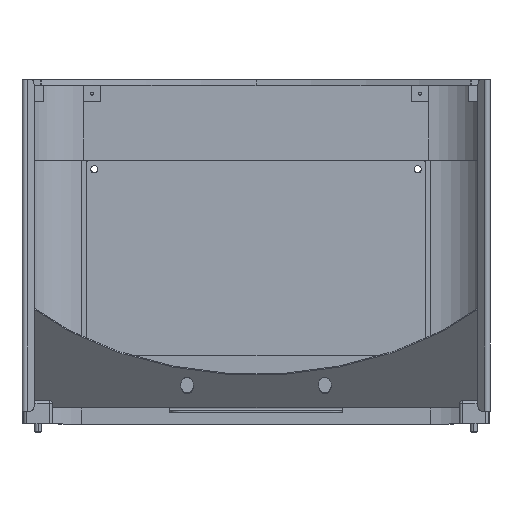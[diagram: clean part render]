
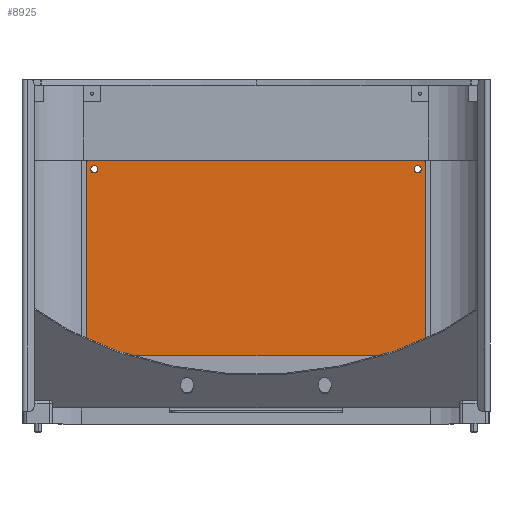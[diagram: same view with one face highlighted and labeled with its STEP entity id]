
A CAD part, top view. The second image highlights one B-rep face of the part: STEP entity #8925.
In plain terms, the highlighted planar face has unit normal (0, 0, 1) as drawn and (0, 0, -1) by its records, which use the part's own axes.
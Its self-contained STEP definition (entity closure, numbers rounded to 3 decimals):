
#103 = CARTESIAN_POINT ( 'NONE',  ( -83., -148., 0. ) ) ;
#225 = AXIS2_PLACEMENT_3D ( 'NONE', #1424, #6289, #2328 ) ;
#361 = EDGE_CURVE ( 'NONE', #6831, #1238, #9578, .T. ) ;
#413 = CARTESIAN_POINT ( 'NONE',  ( -83., -146., 0. ) ) ;
#531 = FACE_BOUND ( 'NONE', #4824, .T. ) ;
#546 = ORIENTED_EDGE ( 'NONE', *, *, #2759, .T. ) ;
#609 = ORIENTED_EDGE ( 'NONE', *, *, #11986, .T. ) ;
#641 = VERTEX_POINT ( 'NONE', #1896 ) ;
#709 = CIRCLE ( 'NONE', #9811, 3.15 ) ;
#739 = DIRECTION ( 'NONE',  ( 0., 0., 1. ) ) ;
#772 = ORIENTED_EDGE ( 'NONE', *, *, #11111, .T. ) ;
#837 = DIRECTION ( 'NONE',  ( 1., 0., 0. ) ) ;
#839 = ORIENTED_EDGE ( 'NONE', *, *, #10468, .F. ) ;
#958 = CARTESIAN_POINT ( 'NONE',  ( 83., -148., 0. ) ) ;
#1198 = EDGE_CURVE ( 'NONE', #641, #2034, #5326, .T. ) ;
#1238 = VERTEX_POINT ( 'NONE', #6722 ) ;
#1259 = EDGE_LOOP ( 'NONE', ( #3783, #2406 ) ) ;
#1267 = EDGE_LOOP ( 'NONE', ( #839, #2640, #9452, #2862, #5529, #3616, #7138, #2776 ) ) ;
#1424 = CARTESIAN_POINT ( 'NONE',  ( 77.5, -141., 0. ) ) ;
#1628 = CARTESIAN_POINT ( 'NONE',  ( -85., 146., 0. ) ) ;
#1756 = VERTEX_POINT ( 'NONE', #11894 ) ;
#1792 = EDGE_LOOP ( 'NONE', ( #546, #10873 ) ) ;
#1801 = CARTESIAN_POINT ( 'NONE',  ( 83., -146., 0. ) ) ;
#1896 = CARTESIAN_POINT ( 'NONE',  ( -80.65, -141., 0. ) ) ;
#2034 = VERTEX_POINT ( 'NONE', #6420 ) ;
#2038 = AXIS2_PLACEMENT_3D ( 'NONE', #5940, #3034, #3963 ) ;
#2084 = DIRECTION ( 'NONE',  ( 0., 0., 1. ) ) ;
#2247 = DIRECTION ( 'NONE',  ( 1., 0., 0. ) ) ;
#2312 = CARTESIAN_POINT ( 'NONE',  ( 77.5, 141., 0. ) ) ;
#2328 = DIRECTION ( 'NONE',  ( 1., 0., 0. ) ) ;
#2406 = ORIENTED_EDGE ( 'NONE', *, *, #1198, .T. ) ;
#2492 = CARTESIAN_POINT ( 'NONE',  ( 77.5, -141., 0. ) ) ;
#2640 = ORIENTED_EDGE ( 'NONE', *, *, #5166, .T. ) ;
#2673 = DIRECTION ( 'NONE',  ( 0., 0., -1. ) ) ;
#2722 = CARTESIAN_POINT ( 'NONE',  ( -85., -146., 0. ) ) ;
#2759 = EDGE_CURVE ( 'NONE', #1238, #6831, #709, .T. ) ;
#2776 = ORIENTED_EDGE ( 'NONE', *, *, #3801, .T. ) ;
#2856 = EDGE_CURVE ( 'NONE', #9164, #4027, #11686, .T. ) ;
#2862 = ORIENTED_EDGE ( 'NONE', *, *, #8737, .T. ) ;
#2886 = DIRECTION ( 'NONE',  ( 0., 0., -1. ) ) ;
#2926 = VERTEX_POINT ( 'NONE', #11187 ) ;
#2978 = CARTESIAN_POINT ( 'NONE',  ( -83., 148., 0. ) ) ;
#3011 = CARTESIAN_POINT ( 'NONE',  ( 85., 148., 0. ) ) ;
#3034 = DIRECTION ( 'NONE',  ( 0., 0., -1. ) ) ;
#3186 = CARTESIAN_POINT ( 'NONE',  ( 74.35, -141., 0. ) ) ;
#3339 = CARTESIAN_POINT ( 'NONE',  ( -85., 148., 0. ) ) ;
#3367 = CARTESIAN_POINT ( 'NONE',  ( 77.5, 141., 0. ) ) ;
#3470 = EDGE_CURVE ( 'NONE', #2034, #641, #5164, .T. ) ;
#3584 = CIRCLE ( 'NONE', #4341, 2. ) ;
#3606 = AXIS2_PLACEMENT_3D ( 'NONE', #9991, #4374, #837 ) ;
#3616 = ORIENTED_EDGE ( 'NONE', *, *, #4619, .T. ) ;
#3728 = CIRCLE ( 'NONE', #6999, 3.15 ) ;
#3783 = ORIENTED_EDGE ( 'NONE', *, *, #3470, .T. ) ;
#3801 = EDGE_CURVE ( 'NONE', #7284, #7854, #4586, .T. ) ;
#3963 = DIRECTION ( 'NONE',  ( 1., 0., 0. ) ) ;
#4027 = VERTEX_POINT ( 'NONE', #2722 ) ;
#4057 = ORIENTED_EDGE ( 'NONE', *, *, #6581, .T. ) ;
#4126 = FACE_BOUND ( 'NONE', #1259, .T. ) ;
#4183 = PLANE ( 'NONE',  #4273 ) ;
#4267 = EDGE_CURVE ( 'NONE', #5170, #11543, #6047, .T. ) ;
#4273 = AXIS2_PLACEMENT_3D ( 'NONE', #8837, #6054, #10722 ) ;
#4341 = AXIS2_PLACEMENT_3D ( 'NONE', #1801, #2886, #9328 ) ;
#4371 = FACE_BOUND ( 'NONE', #8415, .T. ) ;
#4374 = DIRECTION ( 'NONE',  ( 0., 0., 1. ) ) ;
#4409 = VECTOR ( 'NONE', #4425, 1000. ) ;
#4425 = DIRECTION ( 'NONE',  ( 0., -1., 0. ) ) ;
#4454 = DIRECTION ( 'NONE',  ( 1., 0., 0. ) ) ;
#4586 = CIRCLE ( 'NONE', #2038, 2. ) ;
#4619 = EDGE_CURVE ( 'NONE', #9164, #11326, #7561, .T. ) ;
#4824 = EDGE_LOOP ( 'NONE', ( #609, #772 ) ) ;
#5164 = CIRCLE ( 'NONE', #6715, 3.15 ) ;
#5166 = EDGE_CURVE ( 'NONE', #1756, #11543, #3584, .T. ) ;
#5170 = VERTEX_POINT ( 'NONE', #103 ) ;
#5225 = CIRCLE ( 'NONE', #6781, 2. ) ;
#5264 = CARTESIAN_POINT ( 'NONE',  ( -85., -148., 0. ) ) ;
#5326 = CIRCLE ( 'NONE', #3606, 3.15 ) ;
#5529 = ORIENTED_EDGE ( 'NONE', *, *, #2856, .F. ) ;
#5584 = VERTEX_POINT ( 'NONE', #10100 ) ;
#5797 = AXIS2_PLACEMENT_3D ( 'NONE', #2312, #9721, #10697 ) ;
#5853 = DIRECTION ( 'NONE',  ( 1., 0., 0. ) ) ;
#5927 = DIRECTION ( 'NONE',  ( 0., 0., 1. ) ) ;
#5940 = CARTESIAN_POINT ( 'NONE',  ( 83., 146., 0. ) ) ;
#6047 = LINE ( 'NONE', #5264, #8886 ) ;
#6054 = DIRECTION ( 'NONE',  ( 0., 0., 1. ) ) ;
#6056 = DIRECTION ( 'NONE',  ( 1., 0., 0. ) ) ;
#6260 = VERTEX_POINT ( 'NONE', #9749 ) ;
#6289 = DIRECTION ( 'NONE',  ( 0., 0., 1. ) ) ;
#6384 = DIRECTION ( 'NONE',  ( 1., 0., 0. ) ) ;
#6420 = CARTESIAN_POINT ( 'NONE',  ( -74.35, -141., 0. ) ) ;
#6581 = EDGE_CURVE ( 'NONE', #2926, #6958, #6817, .T. ) ;
#6715 = AXIS2_PLACEMENT_3D ( 'NONE', #6759, #9596, #2247 ) ;
#6722 = CARTESIAN_POINT ( 'NONE',  ( -74.35, 141., 0. ) ) ;
#6759 = CARTESIAN_POINT ( 'NONE',  ( -77.5, -141., 0. ) ) ;
#6781 = AXIS2_PLACEMENT_3D ( 'NONE', #413, #9989, #6056 ) ;
#6817 = CIRCLE ( 'NONE', #225, 3.15 ) ;
#6831 = VERTEX_POINT ( 'NONE', #11181 ) ;
#6958 = VERTEX_POINT ( 'NONE', #3186 ) ;
#6986 = VECTOR ( 'NONE', #9870, 1000. ) ;
#6999 = AXIS2_PLACEMENT_3D ( 'NONE', #3367, #7233, #9049 ) ;
#7138 = ORIENTED_EDGE ( 'NONE', *, *, #9037, .F. ) ;
#7233 = DIRECTION ( 'NONE',  ( 0., 0., 1. ) ) ;
#7284 = VERTEX_POINT ( 'NONE', #10261 ) ;
#7561 = CIRCLE ( 'NONE', #11420, 2. ) ;
#7689 = DIRECTION ( 'NONE',  ( 0., 1., 0. ) ) ;
#7800 = CARTESIAN_POINT ( 'NONE',  ( -77.5, 141., 0. ) ) ;
#7854 = VERTEX_POINT ( 'NONE', #10161 ) ;
#8415 = EDGE_LOOP ( 'NONE', ( #4057, #8993 ) ) ;
#8704 = CIRCLE ( 'NONE', #5797, 3.15 ) ;
#8737 = EDGE_CURVE ( 'NONE', #5170, #4027, #5225, .T. ) ;
#8837 = CARTESIAN_POINT ( 'NONE',  ( 0., 0., 0. ) ) ;
#8886 = VECTOR ( 'NONE', #9923, 1000. ) ;
#8899 = FACE_OUTER_BOUND ( 'NONE', #1267, .T. ) ;
#8925 = ADVANCED_FACE ( 'NONE', ( #4371, #11750, #4126, #531, #8899 ), #4183, .F. ) ;
#8993 = ORIENTED_EDGE ( 'NONE', *, *, #11962, .T. ) ;
#9020 = CARTESIAN_POINT ( 'NONE',  ( -85., 148., 0. ) ) ;
#9037 = EDGE_CURVE ( 'NONE', #7284, #11326, #11570, .T. ) ;
#9049 = DIRECTION ( 'NONE',  ( 1., 0., 0. ) ) ;
#9164 = VERTEX_POINT ( 'NONE', #1628 ) ;
#9328 = DIRECTION ( 'NONE',  ( 1., 0., 0. ) ) ;
#9452 = ORIENTED_EDGE ( 'NONE', *, *, #4267, .F. ) ;
#9578 = CIRCLE ( 'NONE', #10160, 3.15 ) ;
#9596 = DIRECTION ( 'NONE',  ( 0., 0., 1. ) ) ;
#9620 = DIRECTION ( 'NONE',  ( 1., 0., 0. ) ) ;
#9721 = DIRECTION ( 'NONE',  ( 0., 0., 1. ) ) ;
#9749 = CARTESIAN_POINT ( 'NONE',  ( 74.35, 141., 0. ) ) ;
#9811 = AXIS2_PLACEMENT_3D ( 'NONE', #10536, #5927, #9620 ) ;
#9870 = DIRECTION ( 'NONE',  ( -1., 0., 0. ) ) ;
#9923 = DIRECTION ( 'NONE',  ( 1., 0., 0. ) ) ;
#9989 = DIRECTION ( 'NONE',  ( 0., 0., -1. ) ) ;
#9991 = CARTESIAN_POINT ( 'NONE',  ( -77.5, -141., 0. ) ) ;
#10100 = CARTESIAN_POINT ( 'NONE',  ( 80.65, 141., 0. ) ) ;
#10160 = AXIS2_PLACEMENT_3D ( 'NONE', #7800, #2084, #5853 ) ;
#10161 = CARTESIAN_POINT ( 'NONE',  ( 85., 146., 0. ) ) ;
#10242 = VECTOR ( 'NONE', #7689, 1000. ) ;
#10261 = CARTESIAN_POINT ( 'NONE',  ( 83., 148., 0. ) ) ;
#10468 = EDGE_CURVE ( 'NONE', #1756, #7854, #11367, .T. ) ;
#10536 = CARTESIAN_POINT ( 'NONE',  ( -77.5, 141., 0. ) ) ;
#10697 = DIRECTION ( 'NONE',  ( 1., 0., 0. ) ) ;
#10722 = DIRECTION ( 'NONE',  ( 1., 0., 0. ) ) ;
#10873 = ORIENTED_EDGE ( 'NONE', *, *, #361, .T. ) ;
#10987 = CARTESIAN_POINT ( 'NONE',  ( -83., 146., 0. ) ) ;
#11053 = AXIS2_PLACEMENT_3D ( 'NONE', #2492, #739, #4454 ) ;
#11111 = EDGE_CURVE ( 'NONE', #6260, #5584, #8704, .T. ) ;
#11181 = CARTESIAN_POINT ( 'NONE',  ( -80.65, 141., 0. ) ) ;
#11187 = CARTESIAN_POINT ( 'NONE',  ( 80.65, -141., 0. ) ) ;
#11326 = VERTEX_POINT ( 'NONE', #2978 ) ;
#11367 = LINE ( 'NONE', #3011, #10242 ) ;
#11420 = AXIS2_PLACEMENT_3D ( 'NONE', #10987, #2673, #6384 ) ;
#11543 = VERTEX_POINT ( 'NONE', #958 ) ;
#11570 = LINE ( 'NONE', #3339, #6986 ) ;
#11686 = LINE ( 'NONE', #9020, #4409 ) ;
#11750 = FACE_BOUND ( 'NONE', #1792, .T. ) ;
#11834 = CIRCLE ( 'NONE', #11053, 3.15 ) ;
#11894 = CARTESIAN_POINT ( 'NONE',  ( 85., -146., 0. ) ) ;
#11962 = EDGE_CURVE ( 'NONE', #6958, #2926, #11834, .T. ) ;
#11986 = EDGE_CURVE ( 'NONE', #5584, #6260, #3728, .T. ) ;
